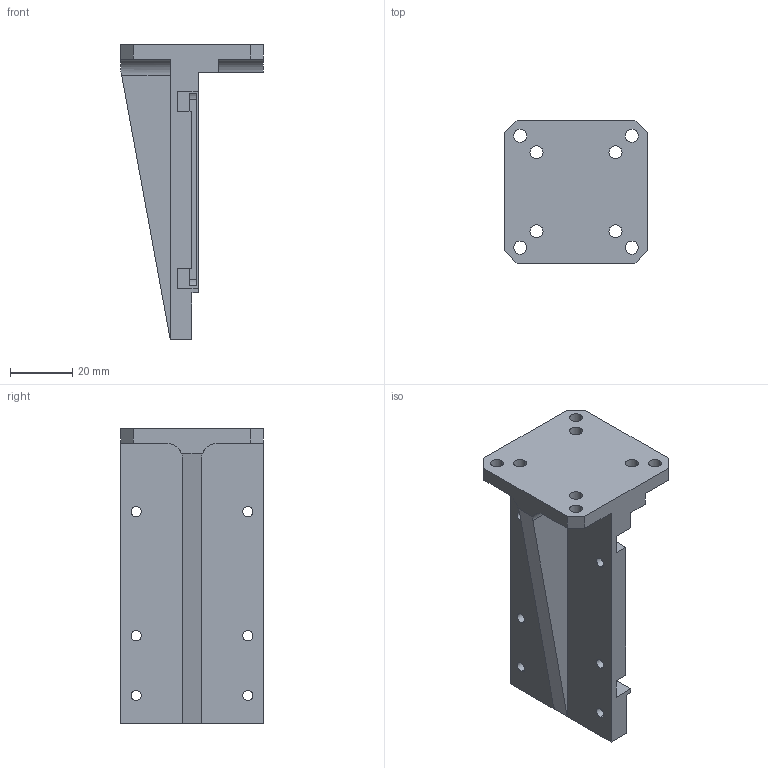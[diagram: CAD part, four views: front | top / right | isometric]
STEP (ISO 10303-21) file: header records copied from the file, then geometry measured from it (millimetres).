
FILE_DESCRIPTION (( 'STEP AP203' ), '1' );
FILE_NAME ('MVH2408-Motor-Vertikalhalter-kurz.STEP', '2016-01-19T11:01:18', ( '' ), ( '' ), 'SwSTEP 2.0', 'SolidWorks 2014', '' );
FILE_SCHEMA (( 'CONFIG_CONTROL_DESIGN' ));
Length unit declared in the file: millimetre
Products named in the file (1): MVH2408-Motor-Vertikalhalter-kurz
Bounding box: 46 x 46 x 95 mm (x, y, z)
Volume: 38686.8 mm3; surface area: 18763.3 mm2
Topology: 1 solids, 1 shells, 107 faces, 305 edges, 202 vertices
Faces by surface type: plane 61, cylinder 46
Entity records: 3634 total; most frequent: CARTESIAN_POINT 621, DIRECTION 613, ORIENTED_EDGE 610, EDGE_CURVE 305, LINE 209, VECTOR 209, AXIS2_PLACEMENT_3D 202, VERTEX_POINT 202
